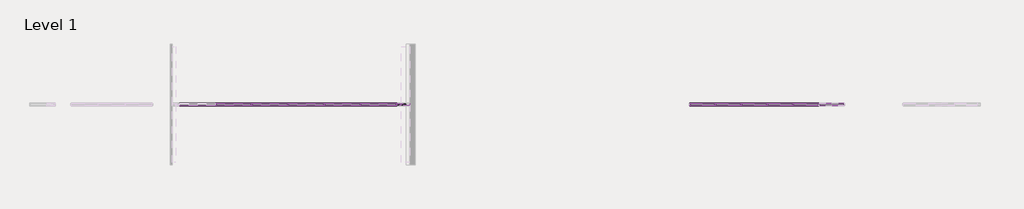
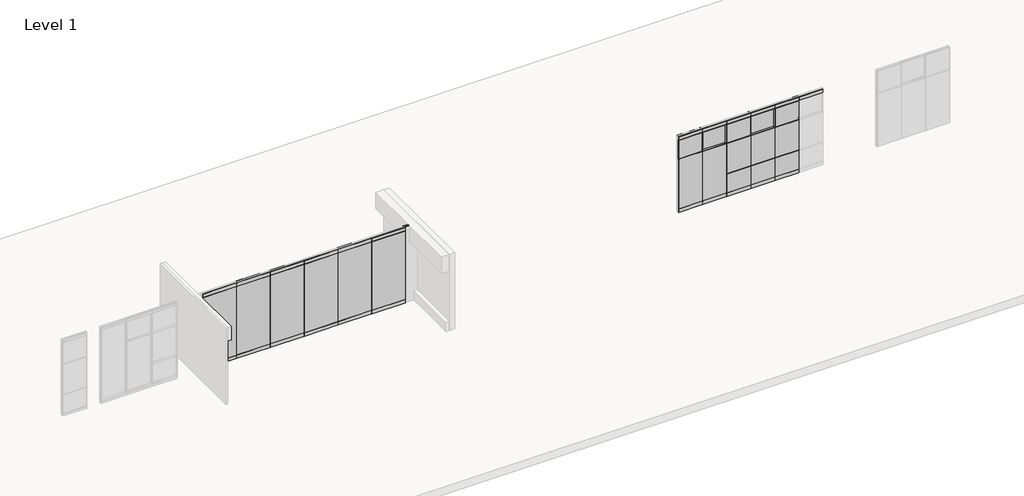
# One storey, part 13 of 22: 111 proxies.
"""IFC4 building model written with IfcOpenShell, lengths in millimetres."""

from ifc_helpers import new_model, si_unit, origin, place, context, project, spatial, transform, mapped, element, save
from components import fkc_e36d1c91, fkn_ecde4ead, fascia_teknion_ceiling_and_base_fpb1_f6fada93, fascia_teknion_ceiling_and_base_fpb1_13b4bfed, fascia_teknion_ceiling_and_base_fpb1_0bfeef01, fascia_teknion_ceiling_and_base_fpb1_b9f04170, fascia_teknion_ceiling_and_base_fpb1_707b8d37, fascia_teknion_ceiling_and_base_fpb1_816009f4, frame_teknion_horizontal_rail_5872ae1a, frame_teknion_horizontal_rail_46ee653b, frame_teknion_horizontal_rail_96f289ab, frame_teknion_horizontal_rail_2bcae702, full_84ced3e5, full_de6f7fca, glass_fascia_921fc641, glass_fascia_0a4ee349, glass_fascia_7fd7f416, working_wall_monolithic_level_i_0b7852cd, working_wall_monolithic_level_i_72bc8cad, level_ii_09c6d2e8, level_ii_52e50c64, segmented_monolithic_level_i_1ec0774b, segmented_monolithic_level_i_c740ac9f, segmented_monolithic_level_i_f7c86621, segmented_monolithic_level_i_c631dfd0

model = new_model("IFC4")

# Units and contexts
model_context = context("Model", 3, world=origin())
ifc_project = project(units=[si_unit("LENGTHUNIT", "METRE", prefix="MILLI")], contexts=[model_context])

# Site, building, storey
site = spatial("IfcSite", under=ifc_project)
building = spatial("IfcBuilding", under=site)
storey = spatial("IfcBuildingStorey", under=building, Name="Level 1", Elevation=0.0)

# Proxies
placement = place(None, origin())
fkc_shape = fkc_e36d1c91(model_context)
element("IfcBuildingElementProxy", 1, Name="Frame-Teknion-Altos-Base_Channel : FKC", ObjectType="Frame-Teknion-Altos-Base_Channel : FKC", at=placement, inside=storey, context=model_context, shape_type="MappedRepresentation", body=[
    mapped(fkc_shape, transform((11261.4815098, 1812.351065, 0.0), x_axis=(1.0, 0.0, 0.0), y_axis=(0.0, 1.0, 0.0), z_axis=(0.0, 0.0, 1.0))),
])
fkn_shape = fkn_ecde4ead(model_context)
element("IfcBuildingElementProxy", 2, Name="Frame-Teknion-Altos-Ceiling_Channel : FKN", ObjectType="Frame-Teknion-Altos-Ceiling_Channel : FKN", at=placement, inside=storey, context=model_context, shape_type="MappedRepresentation", body=[
    mapped(fkn_shape, transform((11172.5815098, 1812.351065, 3048.0), x_axis=(1.0, 0.0, 0.0), y_axis=(0.0, 1.0, 0.0), z_axis=(0.0, 0.0, 1.0))),
])
fascia_teknion_ceiling_and_base_fpb1_shape = fascia_teknion_ceiling_and_base_fpb1_f6fada93(model_context)
element("IfcBuildingElementProxy", 3, Name="Fascia-Teknion-Ceiling_and_Base : FPB1", ObjectType="Fascia-Teknion-Ceiling_and_Base : FPB1", at=placement, inside=storey, context=model_context, shape_type="MappedRepresentation", body=[
    mapped(fascia_teknion_ceiling_and_base_fpb1_shape, transform((5345.8115879, 1843.3402105, 15.875), x_axis=(1.0, 0.0, 0.0), y_axis=(0.0, 1.0, 0.0), z_axis=(0.0, 0.0, 1.0))),
])
element("IfcBuildingElementProxy", 4, Name="Fascia-Teknion-Ceiling_and_Base : FPB1", ObjectType="Fascia-Teknion-Ceiling_and_Base : FPB1", at=placement, inside=storey, context=model_context, shape_type="MappedRepresentation", body=[
    mapped(fascia_teknion_ceiling_and_base_fpb1_shape, transform((6622.1615879, 1843.3402105, 15.875), x_axis=(1.0, 0.0, 0.0), y_axis=(0.0, 1.0, 0.0), z_axis=(0.0, 0.0, 1.0))),
])
element("IfcBuildingElementProxy", 5, Name="Fascia-Teknion-Ceiling_and_Base : FPB1", ObjectType="Fascia-Teknion-Ceiling_and_Base : FPB1", at=placement, inside=storey, context=model_context, shape_type="MappedRepresentation", body=[
    mapped(fascia_teknion_ceiling_and_base_fpb1_shape, transform((7898.5115879, 1843.3402105, 15.875), x_axis=(1.0, 0.0, 0.0), y_axis=(0.0, 1.0, 0.0), z_axis=(0.0, 0.0, 1.0))),
])
element("IfcBuildingElementProxy", 6, Name="Fascia-Teknion-Ceiling_and_Base : FPB1", ObjectType="Fascia-Teknion-Ceiling_and_Base : FPB1", at=placement, inside=storey, context=model_context, shape_type="MappedRepresentation", body=[
    mapped(fascia_teknion_ceiling_and_base_fpb1_shape, transform((9174.8615879, 1843.3402105, 15.875), x_axis=(1.0, 0.0, 0.0), y_axis=(0.0, 1.0, 0.0), z_axis=(0.0, 0.0, 1.0))),
])
element("IfcBuildingElementProxy", 7, Name="Fascia-Teknion-Ceiling_and_Base : FPB1", ObjectType="Fascia-Teknion-Ceiling_and_Base : FPB1", at=placement, inside=storey, context=model_context, shape_type="MappedRepresentation", body=[
    mapped(fascia_teknion_ceiling_and_base_fpb1_shape, transform((10451.2115879, 1843.3402105, 15.875), x_axis=(1.0, 0.0, 0.0), y_axis=(0.0, 1.0, 0.0), z_axis=(0.0, 0.0, 1.0))),
])
fascia_teknion_ceiling_and_base_fpb1_2_shape = fascia_teknion_ceiling_and_base_fpb1_13b4bfed(model_context)
element("IfcBuildingElementProxy", 8, Name="Fascia-Teknion-Ceiling_and_Base : FPB1", ObjectType="Fascia-Teknion-Ceiling_and_Base : FPB1", at=placement, inside=storey, context=model_context, shape_type="MappedRepresentation", body=[
    mapped(fascia_teknion_ceiling_and_base_fpb1_2_shape, transform((5345.8115879, 1781.3642105, 15.875), x_axis=(1.0, 0.0, 0.0), y_axis=(0.0, 1.0, 0.0), z_axis=(0.0, 0.0, 1.0))),
])
element("IfcBuildingElementProxy", 9, Name="Fascia-Teknion-Ceiling_and_Base : FPB1", ObjectType="Fascia-Teknion-Ceiling_and_Base : FPB1", at=placement, inside=storey, context=model_context, shape_type="MappedRepresentation", body=[
    mapped(fascia_teknion_ceiling_and_base_fpb1_2_shape, transform((4069.4615879, 1781.3642105, 15.875), x_axis=(1.0, 0.0, 0.0), y_axis=(0.0, 1.0, 0.0), z_axis=(0.0, 0.0, 1.0))),
])
element("IfcBuildingElementProxy", 10, Name="Fascia-Teknion-Ceiling_and_Base : FPB1", ObjectType="Fascia-Teknion-Ceiling_and_Base : FPB1", at=placement, inside=storey, context=model_context, shape_type="MappedRepresentation", body=[
    mapped(fascia_teknion_ceiling_and_base_fpb1_2_shape, transform((6622.1615879, 1781.3642105, 15.875), x_axis=(1.0, 0.0, 0.0), y_axis=(0.0, 1.0, 0.0), z_axis=(0.0, 0.0, 1.0))),
])
element("IfcBuildingElementProxy", 11, Name="Fascia-Teknion-Ceiling_and_Base : FPB1", ObjectType="Fascia-Teknion-Ceiling_and_Base : FPB1", at=placement, inside=storey, context=model_context, shape_type="MappedRepresentation", body=[
    mapped(fascia_teknion_ceiling_and_base_fpb1_2_shape, transform((7898.5115879, 1781.3642105, 15.875), x_axis=(1.0, 0.0, 0.0), y_axis=(0.0, 1.0, 0.0), z_axis=(0.0, 0.0, 1.0))),
])
element("IfcBuildingElementProxy", 12, Name="Fascia-Teknion-Ceiling_and_Base : FPB1", ObjectType="Fascia-Teknion-Ceiling_and_Base : FPB1", at=placement, inside=storey, context=model_context, shape_type="MappedRepresentation", body=[
    mapped(fascia_teknion_ceiling_and_base_fpb1_2_shape, transform((9174.8615879, 1781.3642105, 15.875), x_axis=(1.0, 0.0, 0.0), y_axis=(0.0, 1.0, 0.0), z_axis=(0.0, 0.0, 1.0))),
])
element("IfcBuildingElementProxy", 13, Name="Fascia-Teknion-Ceiling_and_Base : FPB1", ObjectType="Fascia-Teknion-Ceiling_and_Base : FPB1", at=placement, inside=storey, context=model_context, shape_type="MappedRepresentation", body=[
    mapped(fascia_teknion_ceiling_and_base_fpb1_2_shape, transform((10451.2115879, 1781.3642105, 15.875), x_axis=(1.0, 0.0, 0.0), y_axis=(0.0, 1.0, 0.0), z_axis=(0.0, 0.0, 1.0))),
])
fascia_teknion_ceiling_and_base_fpb1_3_shape = fascia_teknion_ceiling_and_base_fpb1_0bfeef01(model_context)
element("IfcBuildingElementProxy", 14, Name="Fascia-Teknion-Ceiling_and_Base : FPB1", ObjectType="Fascia-Teknion-Ceiling_and_Base : FPB1", at=placement, inside=storey, context=model_context, shape_type="MappedRepresentation", body=[
    mapped(fascia_teknion_ceiling_and_base_fpb1_3_shape, transform((21863.3908134, 1843.3402105, 15.875), x_axis=(1.0, 0.0, 0.0), y_axis=(0.0, 1.0, 0.0), z_axis=(0.0, 0.0, 1.0))),
])
element("IfcBuildingElementProxy", 15, Name="Fascia-Teknion-Ceiling_and_Base : FPB1", ObjectType="Fascia-Teknion-Ceiling_and_Base : FPB1", at=placement, inside=storey, context=model_context, shape_type="MappedRepresentation", body=[
    mapped(fascia_teknion_ceiling_and_base_fpb1_3_shape, transform((26421.4009696, 1843.3402105, 15.875), x_axis=(1.0, 0.0, 0.0), y_axis=(0.0, 1.0, 0.0), z_axis=(0.0, 0.0, 1.0))),
])
fascia_teknion_ceiling_and_base_fpb1_4_shape = fascia_teknion_ceiling_and_base_fpb1_b9f04170(model_context)
element("IfcBuildingElementProxy", 16, Name="Fascia-Teknion-Ceiling_and_Base : FPB1", ObjectType="Fascia-Teknion-Ceiling_and_Base : FPB1", at=placement, inside=storey, context=model_context, shape_type="MappedRepresentation", body=[
    mapped(fascia_teknion_ceiling_and_base_fpb1_4_shape, transform((21863.3908134, 1781.3642105, 15.875), x_axis=(1.0, 0.0, 0.0), y_axis=(0.0, 1.0, 0.0), z_axis=(0.0, 0.0, 1.0))),
])
fascia_teknion_ceiling_and_base_fpb1_5_shape = fascia_teknion_ceiling_and_base_fpb1_707b8d37(model_context)
element("IfcBuildingElementProxy", 17, Name="Fascia-Teknion-Ceiling_and_Base : FPB1", ObjectType="Fascia-Teknion-Ceiling_and_Base : FPB1", at=placement, inside=storey, context=model_context, shape_type="MappedRepresentation", body=[
    mapped(fascia_teknion_ceiling_and_base_fpb1_5_shape, transform((24599.5958915, 1781.3642105, 15.875), x_axis=(1.0, 0.0, 0.0), y_axis=(0.0, 1.0, 0.0), z_axis=(0.0, 0.0, 1.0))),
])
element("IfcBuildingElementProxy", 18, Name="Fascia-Teknion-Ceiling_and_Base : FPB1", ObjectType="Fascia-Teknion-Ceiling_and_Base : FPB1", at=placement, inside=storey, context=model_context, shape_type="MappedRepresentation", body=[
    mapped(fascia_teknion_ceiling_and_base_fpb1_5_shape, transform((23685.1958915, 1781.3642105, 15.875), x_axis=(1.0, 0.0, 0.0), y_axis=(0.0, 1.0, 0.0), z_axis=(0.0, 0.0, 1.0))),
])
element("IfcBuildingElementProxy", 19, Name="Fascia-Teknion-Ceiling_and_Base : FPB1", ObjectType="Fascia-Teknion-Ceiling_and_Base : FPB1", at=placement, inside=storey, context=model_context, shape_type="MappedRepresentation", body=[
    mapped(fascia_teknion_ceiling_and_base_fpb1_5_shape, transform((22770.7958915, 1781.3642105, 15.875), x_axis=(1.0, 0.0, 0.0), y_axis=(0.0, 1.0, 0.0), z_axis=(0.0, 0.0, 1.0))),
])
element("IfcBuildingElementProxy", 20, Name="Fascia-Teknion-Ceiling_and_Base : FPB1", ObjectType="Fascia-Teknion-Ceiling_and_Base : FPB1", at=placement, inside=storey, context=model_context, shape_type="MappedRepresentation", body=[
    mapped(fascia_teknion_ceiling_and_base_fpb1_5_shape, transform((25513.9958915, 1781.3642105, 15.875), x_axis=(1.0, 0.0, 0.0), y_axis=(0.0, 1.0, 0.0), z_axis=(0.0, 0.0, 1.0))),
])
fascia_teknion_ceiling_and_base_fpb1_6_shape = fascia_teknion_ceiling_and_base_fpb1_816009f4(model_context)
element("IfcBuildingElementProxy", 21, Name="Fascia-Teknion-Ceiling_and_Base : FPB1", ObjectType="Fascia-Teknion-Ceiling_and_Base : FPB1", at=placement, inside=storey, context=model_context, shape_type="MappedRepresentation", body=[
    mapped(fascia_teknion_ceiling_and_base_fpb1_6_shape, transform((24599.5958915, 1843.3402105, 15.875), x_axis=(1.0, 0.0, 0.0), y_axis=(0.0, 1.0, 0.0), z_axis=(0.0, 0.0, 1.0))),
])
element("IfcBuildingElementProxy", 22, Name="Fascia-Teknion-Ceiling_and_Base : FPB1", ObjectType="Fascia-Teknion-Ceiling_and_Base : FPB1", at=placement, inside=storey, context=model_context, shape_type="MappedRepresentation", body=[
    mapped(fascia_teknion_ceiling_and_base_fpb1_6_shape, transform((23685.1958915, 1843.3402105, 15.875), x_axis=(1.0, 0.0, 0.0), y_axis=(0.0, 1.0, 0.0), z_axis=(0.0, 0.0, 1.0))),
])
element("IfcBuildingElementProxy", 23, Name="Fascia-Teknion-Ceiling_and_Base : FPB1", ObjectType="Fascia-Teknion-Ceiling_and_Base : FPB1", at=placement, inside=storey, context=model_context, shape_type="MappedRepresentation", body=[
    mapped(fascia_teknion_ceiling_and_base_fpb1_6_shape, transform((22770.7958915, 1843.3402105, 15.875), x_axis=(1.0, 0.0, 0.0), y_axis=(0.0, 1.0, 0.0), z_axis=(0.0, 0.0, 1.0))),
])
element("IfcBuildingElementProxy", 24, Name="Fascia-Teknion-Ceiling_and_Base : FPB1", ObjectType="Fascia-Teknion-Ceiling_and_Base : FPB1", at=placement, inside=storey, context=model_context, shape_type="MappedRepresentation", body=[
    mapped(fascia_teknion_ceiling_and_base_fpb1_6_shape, transform((25513.9958915, 1843.3402105, 15.875), x_axis=(1.0, 0.0, 0.0), y_axis=(0.0, 1.0, 0.0), z_axis=(0.0, 0.0, 1.0))),
])
element("IfcBuildingElementProxy", 25, Name="Fascia-Teknion-Ceiling_and_Base : FPC", ObjectType="Fascia-Teknion-Ceiling_and_Base : FPC", at=placement, inside=storey, context=model_context, shape_type="MappedRepresentation", body=[
    mapped(fascia_teknion_ceiling_and_base_fpb1_shape, transform((5345.8115879, 1843.3402105, 2900.045), x_axis=(1.0, 0.0, 0.0), y_axis=(0.0, 1.0, 0.0), z_axis=(0.0, 0.0, 1.0))),
])
element("IfcBuildingElementProxy", 26, Name="Fascia-Teknion-Ceiling_and_Base : FPC", ObjectType="Fascia-Teknion-Ceiling_and_Base : FPC", at=placement, inside=storey, context=model_context, shape_type="MappedRepresentation", body=[
    mapped(fascia_teknion_ceiling_and_base_fpb1_shape, transform((6622.1615879, 1843.3402105, 2900.045), x_axis=(1.0, 0.0, 0.0), y_axis=(0.0, 1.0, 0.0), z_axis=(0.0, 0.0, 1.0))),
])
element("IfcBuildingElementProxy", 27, Name="Fascia-Teknion-Ceiling_and_Base : FPC", ObjectType="Fascia-Teknion-Ceiling_and_Base : FPC", at=placement, inside=storey, context=model_context, shape_type="MappedRepresentation", body=[
    mapped(fascia_teknion_ceiling_and_base_fpb1_shape, transform((7898.5115879, 1843.3402105, 2900.045), x_axis=(1.0, 0.0, 0.0), y_axis=(0.0, 1.0, 0.0), z_axis=(0.0, 0.0, 1.0))),
])
element("IfcBuildingElementProxy", 28, Name="Fascia-Teknion-Ceiling_and_Base : FPC", ObjectType="Fascia-Teknion-Ceiling_and_Base : FPC", at=placement, inside=storey, context=model_context, shape_type="MappedRepresentation", body=[
    mapped(fascia_teknion_ceiling_and_base_fpb1_shape, transform((9174.8615879, 1843.3402105, 2900.045), x_axis=(1.0, 0.0, 0.0), y_axis=(0.0, 1.0, 0.0), z_axis=(0.0, 0.0, 1.0))),
])
element("IfcBuildingElementProxy", 29, Name="Fascia-Teknion-Ceiling_and_Base : FPC", ObjectType="Fascia-Teknion-Ceiling_and_Base : FPC", at=placement, inside=storey, context=model_context, shape_type="MappedRepresentation", body=[
    mapped(fascia_teknion_ceiling_and_base_fpb1_shape, transform((10451.2115879, 1843.3402105, 2900.045), x_axis=(1.0, 0.0, 0.0), y_axis=(0.0, 1.0, 0.0), z_axis=(0.0, 0.0, 1.0))),
])
element("IfcBuildingElementProxy", 30, Name="Fascia-Teknion-Ceiling_and_Base : FPC", ObjectType="Fascia-Teknion-Ceiling_and_Base : FPC", at=placement, inside=storey, context=model_context, shape_type="MappedRepresentation", body=[
    mapped(fascia_teknion_ceiling_and_base_fpb1_2_shape, transform((5345.8115879, 1781.3642105, 2900.045), x_axis=(1.0, 0.0, 0.0), y_axis=(0.0, 1.0, 0.0), z_axis=(0.0, 0.0, 1.0))),
])
element("IfcBuildingElementProxy", 31, Name="Fascia-Teknion-Ceiling_and_Base : FPC", ObjectType="Fascia-Teknion-Ceiling_and_Base : FPC", at=placement, inside=storey, context=model_context, shape_type="MappedRepresentation", body=[
    mapped(fascia_teknion_ceiling_and_base_fpb1_2_shape, transform((4069.4615879, 1781.3642105, 2900.045), x_axis=(1.0, 0.0, 0.0), y_axis=(0.0, 1.0, 0.0), z_axis=(0.0, 0.0, 1.0))),
])
element("IfcBuildingElementProxy", 32, Name="Fascia-Teknion-Ceiling_and_Base : FPC", ObjectType="Fascia-Teknion-Ceiling_and_Base : FPC", at=placement, inside=storey, context=model_context, shape_type="MappedRepresentation", body=[
    mapped(fascia_teknion_ceiling_and_base_fpb1_2_shape, transform((6622.1615879, 1781.3642105, 2900.045), x_axis=(1.0, 0.0, 0.0), y_axis=(0.0, 1.0, 0.0), z_axis=(0.0, 0.0, 1.0))),
])
element("IfcBuildingElementProxy", 33, Name="Fascia-Teknion-Ceiling_and_Base : FPC", ObjectType="Fascia-Teknion-Ceiling_and_Base : FPC", at=placement, inside=storey, context=model_context, shape_type="MappedRepresentation", body=[
    mapped(fascia_teknion_ceiling_and_base_fpb1_2_shape, transform((7898.5115879, 1781.3642105, 2900.045), x_axis=(1.0, 0.0, 0.0), y_axis=(0.0, 1.0, 0.0), z_axis=(0.0, 0.0, 1.0))),
])
element("IfcBuildingElementProxy", 34, Name="Fascia-Teknion-Ceiling_and_Base : FPC", ObjectType="Fascia-Teknion-Ceiling_and_Base : FPC", at=placement, inside=storey, context=model_context, shape_type="MappedRepresentation", body=[
    mapped(fascia_teknion_ceiling_and_base_fpb1_2_shape, transform((9174.8615879, 1781.3642105, 2900.045), x_axis=(1.0, 0.0, 0.0), y_axis=(0.0, 1.0, 0.0), z_axis=(0.0, 0.0, 1.0))),
])
element("IfcBuildingElementProxy", 35, Name="Fascia-Teknion-Ceiling_and_Base : FPC", ObjectType="Fascia-Teknion-Ceiling_and_Base : FPC", at=placement, inside=storey, context=model_context, shape_type="MappedRepresentation", body=[
    mapped(fascia_teknion_ceiling_and_base_fpb1_2_shape, transform((10451.2115879, 1781.3642105, 2900.045), x_axis=(1.0, 0.0, 0.0), y_axis=(0.0, 1.0, 0.0), z_axis=(0.0, 0.0, 1.0))),
])
element("IfcBuildingElementProxy", 36, Name="Fascia-Teknion-Ceiling_and_Base : FPC", ObjectType="Fascia-Teknion-Ceiling_and_Base : FPC", at=placement, inside=storey, context=model_context, shape_type="MappedRepresentation", body=[
    mapped(fascia_teknion_ceiling_and_base_fpb1_4_shape, transform((21863.3908134, 1781.3642105, 2900.045), x_axis=(1.0, 0.0, 0.0), y_axis=(0.0, 1.0, 0.0), z_axis=(0.0, 0.0, 1.0))),
])
element("IfcBuildingElementProxy", 37, Name="Fascia-Teknion-Ceiling_and_Base : FPC", ObjectType="Fascia-Teknion-Ceiling_and_Base : FPC", at=placement, inside=storey, context=model_context, shape_type="MappedRepresentation", body=[
    mapped(fascia_teknion_ceiling_and_base_fpb1_4_shape, transform((26421.4009696, 1781.3642105, 2900.045), x_axis=(1.0, 0.0, 0.0), y_axis=(0.0, 1.0, 0.0), z_axis=(0.0, 0.0, 1.0))),
])
element("IfcBuildingElementProxy", 38, Name="Fascia-Teknion-Ceiling_and_Base : FPC", ObjectType="Fascia-Teknion-Ceiling_and_Base : FPC", at=placement, inside=storey, context=model_context, shape_type="MappedRepresentation", body=[
    mapped(fascia_teknion_ceiling_and_base_fpb1_3_shape, transform((21863.3908134, 1843.3402105, 2900.045), x_axis=(1.0, 0.0, 0.0), y_axis=(0.0, 1.0, 0.0), z_axis=(0.0, 0.0, 1.0))),
])
element("IfcBuildingElementProxy", 39, Name="Fascia-Teknion-Ceiling_and_Base : FPC", ObjectType="Fascia-Teknion-Ceiling_and_Base : FPC", at=placement, inside=storey, context=model_context, shape_type="MappedRepresentation", body=[
    mapped(fascia_teknion_ceiling_and_base_fpb1_3_shape, transform((26421.4009696, 1843.3402105, 2900.045), x_axis=(1.0, 0.0, 0.0), y_axis=(0.0, 1.0, 0.0), z_axis=(0.0, 0.0, 1.0))),
])
element("IfcBuildingElementProxy", 40, Name="Fascia-Teknion-Ceiling_and_Base : FPC", ObjectType="Fascia-Teknion-Ceiling_and_Base : FPC", at=placement, inside=storey, context=model_context, shape_type="MappedRepresentation", body=[
    mapped(fascia_teknion_ceiling_and_base_fpb1_5_shape, transform((24599.5958915, 1781.3642105, 2900.045), x_axis=(1.0, 0.0, 0.0), y_axis=(0.0, 1.0, 0.0), z_axis=(0.0, 0.0, 1.0))),
])
element("IfcBuildingElementProxy", 41, Name="Fascia-Teknion-Ceiling_and_Base : FPC", ObjectType="Fascia-Teknion-Ceiling_and_Base : FPC", at=placement, inside=storey, context=model_context, shape_type="MappedRepresentation", body=[
    mapped(fascia_teknion_ceiling_and_base_fpb1_5_shape, transform((23685.1958915, 1781.3642105, 2900.045), x_axis=(1.0, 0.0, 0.0), y_axis=(0.0, 1.0, 0.0), z_axis=(0.0, 0.0, 1.0))),
])
element("IfcBuildingElementProxy", 42, Name="Fascia-Teknion-Ceiling_and_Base : FPC", ObjectType="Fascia-Teknion-Ceiling_and_Base : FPC", at=placement, inside=storey, context=model_context, shape_type="MappedRepresentation", body=[
    mapped(fascia_teknion_ceiling_and_base_fpb1_5_shape, transform((22770.7958915, 1781.3642105, 2900.045), x_axis=(1.0, 0.0, 0.0), y_axis=(0.0, 1.0, 0.0), z_axis=(0.0, 0.0, 1.0))),
])
element("IfcBuildingElementProxy", 43, Name="Fascia-Teknion-Ceiling_and_Base : FPC", ObjectType="Fascia-Teknion-Ceiling_and_Base : FPC", at=placement, inside=storey, context=model_context, shape_type="MappedRepresentation", body=[
    mapped(fascia_teknion_ceiling_and_base_fpb1_5_shape, transform((25513.9958915, 1781.3642105, 2900.045), x_axis=(1.0, 0.0, 0.0), y_axis=(0.0, 1.0, 0.0), z_axis=(0.0, 0.0, 1.0))),
])
element("IfcBuildingElementProxy", 44, Name="Fascia-Teknion-Ceiling_and_Base : FPC", ObjectType="Fascia-Teknion-Ceiling_and_Base : FPC", at=placement, inside=storey, context=model_context, shape_type="MappedRepresentation", body=[
    mapped(fascia_teknion_ceiling_and_base_fpb1_6_shape, transform((24599.5958915, 1843.3402105, 2900.045), x_axis=(1.0, 0.0, 0.0), y_axis=(0.0, 1.0, 0.0), z_axis=(0.0, 0.0, 1.0))),
])
element("IfcBuildingElementProxy", 45, Name="Fascia-Teknion-Ceiling_and_Base : FPC", ObjectType="Fascia-Teknion-Ceiling_and_Base : FPC", at=placement, inside=storey, context=model_context, shape_type="MappedRepresentation", body=[
    mapped(fascia_teknion_ceiling_and_base_fpb1_6_shape, transform((23685.1958915, 1843.3402105, 2900.045), x_axis=(1.0, 0.0, 0.0), y_axis=(0.0, 1.0, 0.0), z_axis=(0.0, 0.0, 1.0))),
])
element("IfcBuildingElementProxy", 46, Name="Fascia-Teknion-Ceiling_and_Base : FPC", ObjectType="Fascia-Teknion-Ceiling_and_Base : FPC", at=placement, inside=storey, context=model_context, shape_type="MappedRepresentation", body=[
    mapped(fascia_teknion_ceiling_and_base_fpb1_6_shape, transform((22770.7958915, 1843.3402105, 2900.045), x_axis=(1.0, 0.0, 0.0), y_axis=(0.0, 1.0, 0.0), z_axis=(0.0, 0.0, 1.0))),
])
element("IfcBuildingElementProxy", 47, Name="Fascia-Teknion-Ceiling_and_Base : FPC", ObjectType="Fascia-Teknion-Ceiling_and_Base : FPC", at=placement, inside=storey, context=model_context, shape_type="MappedRepresentation", body=[
    mapped(fascia_teknion_ceiling_and_base_fpb1_6_shape, transform((25513.9958915, 1843.3402105, 2900.045), x_axis=(1.0, 0.0, 0.0), y_axis=(0.0, 1.0, 0.0), z_axis=(0.0, 0.0, 1.0))),
])
frame_teknion_horizontal_rail_shape = frame_teknion_horizontal_rail_5872ae1a(model_context)
element("IfcBuildingElementProxy", 48, Name="Frame-Teknion-Horizontal_Rail : FPKK", ObjectType="Frame-Teknion-Horizontal_Rail : FPKK", at=placement, inside=storey, context=model_context, shape_type="MappedRepresentation", body=[
    mapped(frame_teknion_horizontal_rail_shape, transform((21863.3908134, 1812.3522105, 2136.775), x_axis=(1.0, 0.0, 0.0), y_axis=(0.0, 1.0, 0.0), z_axis=(0.0, 0.0, 1.0))),
])
element("IfcBuildingElementProxy", 49, Name="Frame-Teknion-Horizontal_Rail : FPKK", ObjectType="Frame-Teknion-Horizontal_Rail : FPKK", at=placement, inside=storey, context=model_context, shape_type="MappedRepresentation", body=[
    mapped(frame_teknion_horizontal_rail_shape, transform((21863.3908134, 1812.3522105, 151.257), x_axis=(1.0, 0.0, 0.0), y_axis=(0.0, 1.0, 0.0), z_axis=(0.0, 0.0, 1.0))),
])
element("IfcBuildingElementProxy", 50, Name="Frame-Teknion-Horizontal_Rail : FPKK", ObjectType="Frame-Teknion-Horizontal_Rail : FPKK", at=placement, inside=storey, context=model_context, shape_type="MappedRepresentation", body=[
    mapped(frame_teknion_horizontal_rail_shape, transform((21863.3908134, 1812.3522105, 2896.743), x_axis=(1.0, 0.0, 0.0), y_axis=(0.0, 1.0, 0.0), z_axis=(0.0, 0.0, 1.0))),
])
element("IfcBuildingElementProxy", 51, Name="Frame-Teknion-Horizontal_Rail : FPKK", ObjectType="Frame-Teknion-Horizontal_Rail : FPKK", at=placement, inside=storey, context=model_context, shape_type="MappedRepresentation", body=[
    mapped(frame_teknion_horizontal_rail_shape, transform((26421.4009696, 1812.3522105, 917.575), x_axis=(1.0, 0.0, 0.0), y_axis=(0.0, 1.0, 0.0), z_axis=(0.0, 0.0, 1.0))),
])
element("IfcBuildingElementProxy", 52, Name="Frame-Teknion-Horizontal_Rail : FPKK", ObjectType="Frame-Teknion-Horizontal_Rail : FPKK", at=placement, inside=storey, context=model_context, shape_type="MappedRepresentation", body=[
    mapped(frame_teknion_horizontal_rail_shape, transform((26421.4009696, 1812.3522105, 2136.775), x_axis=(1.0, 0.0, 0.0), y_axis=(0.0, 1.0, 0.0), z_axis=(0.0, 0.0, 1.0))),
])
element("IfcBuildingElementProxy", 53, Name="Frame-Teknion-Horizontal_Rail : FPKK", ObjectType="Frame-Teknion-Horizontal_Rail : FPKK", at=placement, inside=storey, context=model_context, shape_type="MappedRepresentation", body=[
    mapped(frame_teknion_horizontal_rail_shape, transform((26421.4009696, 1812.3522105, 151.257), x_axis=(1.0, 0.0, 0.0), y_axis=(0.0, 1.0, 0.0), z_axis=(0.0, 0.0, 1.0))),
])
element("IfcBuildingElementProxy", 54, Name="Frame-Teknion-Horizontal_Rail : FPKK", ObjectType="Frame-Teknion-Horizontal_Rail : FPKK", at=placement, inside=storey, context=model_context, shape_type="MappedRepresentation", body=[
    mapped(frame_teknion_horizontal_rail_shape, transform((26421.4009696, 1812.3522105, 2896.743), x_axis=(1.0, 0.0, 0.0), y_axis=(0.0, 1.0, 0.0), z_axis=(0.0, 0.0, 1.0))),
])
frame_teknion_horizontal_rail_2_shape = frame_teknion_horizontal_rail_46ee653b(model_context)
element("IfcBuildingElementProxy", 55, Name="Frame-Teknion-Horizontal_Rail : FPKK", ObjectType="Frame-Teknion-Horizontal_Rail : FPKK", at=placement, inside=storey, context=model_context, shape_type="MappedRepresentation", body=[
    mapped(frame_teknion_horizontal_rail_2_shape, transform((24599.5958915, 1812.3522105, 2136.775), x_axis=(1.0, 0.0, 0.0), y_axis=(0.0, 1.0, 0.0), z_axis=(0.0, 0.0, 1.0))),
])
element("IfcBuildingElementProxy", 56, Name="Frame-Teknion-Horizontal_Rail : FPKK", ObjectType="Frame-Teknion-Horizontal_Rail : FPKK", at=placement, inside=storey, context=model_context, shape_type="MappedRepresentation", body=[
    mapped(frame_teknion_horizontal_rail_2_shape, transform((24599.5958915, 1812.3522105, 151.257), x_axis=(1.0, 0.0, 0.0), y_axis=(0.0, 1.0, 0.0), z_axis=(0.0, 0.0, 1.0))),
])
element("IfcBuildingElementProxy", 57, Name="Frame-Teknion-Horizontal_Rail : FPKK", ObjectType="Frame-Teknion-Horizontal_Rail : FPKK", at=placement, inside=storey, context=model_context, shape_type="MappedRepresentation", body=[
    mapped(frame_teknion_horizontal_rail_2_shape, transform((24599.5958915, 1812.3522105, 2896.743), x_axis=(1.0, 0.0, 0.0), y_axis=(0.0, 1.0, 0.0), z_axis=(0.0, 0.0, 1.0))),
])
element("IfcBuildingElementProxy", 58, Name="Frame-Teknion-Horizontal_Rail : FPKK", ObjectType="Frame-Teknion-Horizontal_Rail : FPKK", at=placement, inside=storey, context=model_context, shape_type="MappedRepresentation", body=[
    mapped(frame_teknion_horizontal_rail_2_shape, transform((23685.1958915, 1812.3522105, 2136.775), x_axis=(1.0, 0.0, 0.0), y_axis=(0.0, 1.0, 0.0), z_axis=(0.0, 0.0, 1.0))),
])
element("IfcBuildingElementProxy", 59, Name="Frame-Teknion-Horizontal_Rail : FPKK", ObjectType="Frame-Teknion-Horizontal_Rail : FPKK", at=placement, inside=storey, context=model_context, shape_type="MappedRepresentation", body=[
    mapped(frame_teknion_horizontal_rail_2_shape, transform((23685.1958915, 1812.3522105, 151.257), x_axis=(1.0, 0.0, 0.0), y_axis=(0.0, 1.0, 0.0), z_axis=(0.0, 0.0, 1.0))),
])
element("IfcBuildingElementProxy", 60, Name="Frame-Teknion-Horizontal_Rail : FPKK", ObjectType="Frame-Teknion-Horizontal_Rail : FPKK", at=placement, inside=storey, context=model_context, shape_type="MappedRepresentation", body=[
    mapped(frame_teknion_horizontal_rail_2_shape, transform((23685.1958915, 1812.3522105, 2896.743), x_axis=(1.0, 0.0, 0.0), y_axis=(0.0, 1.0, 0.0), z_axis=(0.0, 0.0, 1.0))),
])
element("IfcBuildingElementProxy", 61, Name="Frame-Teknion-Horizontal_Rail : FPKK", ObjectType="Frame-Teknion-Horizontal_Rail : FPKK", at=placement, inside=storey, context=model_context, shape_type="MappedRepresentation", body=[
    mapped(frame_teknion_horizontal_rail_2_shape, transform((23685.1958915, 1812.3522105, 917.575), x_axis=(1.0, 0.0, 0.0), y_axis=(0.0, 1.0, 0.0), z_axis=(0.0, 0.0, 1.0))),
])
element("IfcBuildingElementProxy", 62, Name="Frame-Teknion-Horizontal_Rail : FPKK", ObjectType="Frame-Teknion-Horizontal_Rail : FPKK", at=placement, inside=storey, context=model_context, shape_type="MappedRepresentation", body=[
    mapped(frame_teknion_horizontal_rail_2_shape, transform((24599.5958915, 1812.3522105, 917.575), x_axis=(1.0, 0.0, 0.0), y_axis=(0.0, 1.0, 0.0), z_axis=(0.0, 0.0, 1.0))),
])
element("IfcBuildingElementProxy", 63, Name="Frame-Teknion-Horizontal_Rail : FPKK", ObjectType="Frame-Teknion-Horizontal_Rail : FPKK", at=placement, inside=storey, context=model_context, shape_type="MappedRepresentation", body=[
    mapped(frame_teknion_horizontal_rail_2_shape, transform((22770.7958915, 1812.3522105, 2136.775), x_axis=(1.0, 0.0, 0.0), y_axis=(0.0, 1.0, 0.0), z_axis=(0.0, 0.0, 1.0))),
])
element("IfcBuildingElementProxy", 64, Name="Frame-Teknion-Horizontal_Rail : FPKK", ObjectType="Frame-Teknion-Horizontal_Rail : FPKK", at=placement, inside=storey, context=model_context, shape_type="MappedRepresentation", body=[
    mapped(frame_teknion_horizontal_rail_2_shape, transform((22770.7958915, 1812.3522105, 151.257), x_axis=(1.0, 0.0, 0.0), y_axis=(0.0, 1.0, 0.0), z_axis=(0.0, 0.0, 1.0))),
])
element("IfcBuildingElementProxy", 65, Name="Frame-Teknion-Horizontal_Rail : FPKK", ObjectType="Frame-Teknion-Horizontal_Rail : FPKK", at=placement, inside=storey, context=model_context, shape_type="MappedRepresentation", body=[
    mapped(frame_teknion_horizontal_rail_2_shape, transform((22770.7958915, 1812.3522105, 2896.743), x_axis=(1.0, 0.0, 0.0), y_axis=(0.0, 1.0, 0.0), z_axis=(0.0, 0.0, 1.0))),
])
element("IfcBuildingElementProxy", 66, Name="Frame-Teknion-Horizontal_Rail : FPKK", ObjectType="Frame-Teknion-Horizontal_Rail : FPKK", at=placement, inside=storey, context=model_context, shape_type="MappedRepresentation", body=[
    mapped(frame_teknion_horizontal_rail_2_shape, transform((25513.9958915, 1812.3522105, 917.575), x_axis=(1.0, 0.0, 0.0), y_axis=(0.0, 1.0, 0.0), z_axis=(0.0, 0.0, 1.0))),
])
element("IfcBuildingElementProxy", 67, Name="Frame-Teknion-Horizontal_Rail : FPKK", ObjectType="Frame-Teknion-Horizontal_Rail : FPKK", at=placement, inside=storey, context=model_context, shape_type="MappedRepresentation", body=[
    mapped(frame_teknion_horizontal_rail_2_shape, transform((25513.9958915, 1812.3522105, 2136.775), x_axis=(1.0, 0.0, 0.0), y_axis=(0.0, 1.0, 0.0), z_axis=(0.0, 0.0, 1.0))),
])
element("IfcBuildingElementProxy", 68, Name="Frame-Teknion-Horizontal_Rail : FPKK", ObjectType="Frame-Teknion-Horizontal_Rail : FPKK", at=placement, inside=storey, context=model_context, shape_type="MappedRepresentation", body=[
    mapped(frame_teknion_horizontal_rail_2_shape, transform((25513.9958915, 1812.3522105, 151.257), x_axis=(1.0, 0.0, 0.0), y_axis=(0.0, 1.0, 0.0), z_axis=(0.0, 0.0, 1.0))),
])
element("IfcBuildingElementProxy", 69, Name="Frame-Teknion-Horizontal_Rail : FPKK", ObjectType="Frame-Teknion-Horizontal_Rail : FPKK", at=placement, inside=storey, context=model_context, shape_type="MappedRepresentation", body=[
    mapped(frame_teknion_horizontal_rail_2_shape, transform((25513.9958915, 1812.3522105, 2896.743), x_axis=(1.0, 0.0, 0.0), y_axis=(0.0, 1.0, 0.0), z_axis=(0.0, 0.0, 1.0))),
])
frame_teknion_horizontal_rail_3_shape = frame_teknion_horizontal_rail_96f289ab(model_context)
element("IfcBuildingElementProxy", 70, Name="Frame-Teknion-Horizontal_Rail : FPKK", ObjectType="Frame-Teknion-Horizontal_Rail : FPKK", at=placement, inside=storey, context=model_context, shape_type="MappedRepresentation", body=[
    mapped(frame_teknion_horizontal_rail_3_shape, transform((5345.8115879, 1812.3522105, 151.257), x_axis=(1.0, 0.0, 0.0), y_axis=(0.0, 1.0, 0.0), z_axis=(0.0, 0.0, 1.0))),
])
element("IfcBuildingElementProxy", 71, Name="Frame-Teknion-Horizontal_Rail : FPKK", ObjectType="Frame-Teknion-Horizontal_Rail : FPKK", at=placement, inside=storey, context=model_context, shape_type="MappedRepresentation", body=[
    mapped(frame_teknion_horizontal_rail_3_shape, transform((5345.8115879, 1812.3522105, 2898.3305), x_axis=(1.0, 0.0, 0.0), y_axis=(0.0, 1.0, 0.0), z_axis=(0.0, 0.0, 1.0))),
])
element("IfcBuildingElementProxy", 72, Name="Frame-Teknion-Horizontal_Rail : FPKK", ObjectType="Frame-Teknion-Horizontal_Rail : FPKK", at=placement, inside=storey, context=model_context, shape_type="MappedRepresentation", body=[
    mapped(frame_teknion_horizontal_rail_3_shape, transform((6622.1615879, 1812.3522105, 151.257), x_axis=(1.0, 0.0, 0.0), y_axis=(0.0, 1.0, 0.0), z_axis=(0.0, 0.0, 1.0))),
])
element("IfcBuildingElementProxy", 73, Name="Frame-Teknion-Horizontal_Rail : FPKK", ObjectType="Frame-Teknion-Horizontal_Rail : FPKK", at=placement, inside=storey, context=model_context, shape_type="MappedRepresentation", body=[
    mapped(frame_teknion_horizontal_rail_3_shape, transform((6622.1615879, 1812.3522105, 2898.3305), x_axis=(1.0, 0.0, 0.0), y_axis=(0.0, 1.0, 0.0), z_axis=(0.0, 0.0, 1.0))),
])
element("IfcBuildingElementProxy", 74, Name="Frame-Teknion-Horizontal_Rail : FPKK", ObjectType="Frame-Teknion-Horizontal_Rail : FPKK", at=placement, inside=storey, context=model_context, shape_type="MappedRepresentation", body=[
    mapped(frame_teknion_horizontal_rail_3_shape, transform((7898.5115879, 1812.3522105, 151.257), x_axis=(1.0, 0.0, 0.0), y_axis=(0.0, 1.0, 0.0), z_axis=(0.0, 0.0, 1.0))),
])
element("IfcBuildingElementProxy", 75, Name="Frame-Teknion-Horizontal_Rail : FPKK", ObjectType="Frame-Teknion-Horizontal_Rail : FPKK", at=placement, inside=storey, context=model_context, shape_type="MappedRepresentation", body=[
    mapped(frame_teknion_horizontal_rail_3_shape, transform((7898.5115879, 1812.3522105, 2898.3305), x_axis=(1.0, 0.0, 0.0), y_axis=(0.0, 1.0, 0.0), z_axis=(0.0, 0.0, 1.0))),
])
element("IfcBuildingElementProxy", 76, Name="Frame-Teknion-Horizontal_Rail : FPKK", ObjectType="Frame-Teknion-Horizontal_Rail : FPKK", at=placement, inside=storey, context=model_context, shape_type="MappedRepresentation", body=[
    mapped(frame_teknion_horizontal_rail_3_shape, transform((9174.8615879, 1812.3522105, 151.257), x_axis=(1.0, 0.0, 0.0), y_axis=(0.0, 1.0, 0.0), z_axis=(0.0, 0.0, 1.0))),
])
element("IfcBuildingElementProxy", 77, Name="Frame-Teknion-Horizontal_Rail : FPKK", ObjectType="Frame-Teknion-Horizontal_Rail : FPKK", at=placement, inside=storey, context=model_context, shape_type="MappedRepresentation", body=[
    mapped(frame_teknion_horizontal_rail_3_shape, transform((9174.8615879, 1812.3522105, 2898.3305), x_axis=(1.0, 0.0, 0.0), y_axis=(0.0, 1.0, 0.0), z_axis=(0.0, 0.0, 1.0))),
])
element("IfcBuildingElementProxy", 78, Name="Frame-Teknion-Horizontal_Rail : FPKK", ObjectType="Frame-Teknion-Horizontal_Rail : FPKK", at=placement, inside=storey, context=model_context, shape_type="MappedRepresentation", body=[
    mapped(frame_teknion_horizontal_rail_3_shape, transform((10451.2115879, 1812.3522105, 151.257), x_axis=(1.0, 0.0, 0.0), y_axis=(0.0, 1.0, 0.0), z_axis=(0.0, 0.0, 1.0))),
])
element("IfcBuildingElementProxy", 79, Name="Frame-Teknion-Horizontal_Rail : FPKK", ObjectType="Frame-Teknion-Horizontal_Rail : FPKK", at=placement, inside=storey, context=model_context, shape_type="MappedRepresentation", body=[
    mapped(frame_teknion_horizontal_rail_3_shape, transform((10451.2115879, 1812.3522105, 2898.3305), x_axis=(1.0, 0.0, 0.0), y_axis=(0.0, 1.0, 0.0), z_axis=(0.0, 0.0, 1.0))),
])
frame_teknion_horizontal_rail_4_shape = frame_teknion_horizontal_rail_2bcae702(model_context)
element("IfcBuildingElementProxy", 80, Name="Frame-Teknion-Horizontal_Rail : FPKK", ObjectType="Frame-Teknion-Horizontal_Rail : FPKK", at=placement, inside=storey, context=model_context, shape_type="MappedRepresentation", body=[
    mapped(frame_teknion_horizontal_rail_4_shape, transform((11324.9815098, 1812.351065, 1485.8890638), x_axis=(1.0, 0.0, 0.0), y_axis=(0.0, 1.0, 0.0), z_axis=(0.0, 0.0, 1.0))),
])
full_shape = full_84ced3e5(model_context)
element("IfcBuildingElementProxy", 81, Name="Panel-Fascia-Teknion-Altos-Standard : Full", ObjectType="Panel-Fascia-Teknion-Altos-Standard : Full", at=placement, inside=storey, context=model_context, shape_type="MappedRepresentation", body=[
    mapped(full_shape, transform((5345.8115879, 1852.8652105, 151.257), x_axis=(1.0, 0.0, 0.0), y_axis=(0.0, 1.0, 0.0), z_axis=(0.0, 0.0, 1.0))),
])
element("IfcBuildingElementProxy", 82, Name="Panel-Fascia-Teknion-Altos-Standard : Full", ObjectType="Panel-Fascia-Teknion-Altos-Standard : Full", at=placement, inside=storey, context=model_context, shape_type="MappedRepresentation", body=[
    mapped(full_shape, transform((4069.4615879, 1852.8652105, 151.257), x_axis=(1.0, 0.0, 0.0), y_axis=(0.0, 1.0, 0.0), z_axis=(0.0, 0.0, 1.0))),
])
element("IfcBuildingElementProxy", 83, Name="Panel-Fascia-Teknion-Altos-Standard : Full", ObjectType="Panel-Fascia-Teknion-Altos-Standard : Full", at=placement, inside=storey, context=model_context, shape_type="MappedRepresentation", body=[
    mapped(full_shape, transform((6622.1615879, 1852.8652105, 151.257), x_axis=(1.0, 0.0, 0.0), y_axis=(0.0, 1.0, 0.0), z_axis=(0.0, 0.0, 1.0))),
])
element("IfcBuildingElementProxy", 84, Name="Panel-Fascia-Teknion-Altos-Standard : Full", ObjectType="Panel-Fascia-Teknion-Altos-Standard : Full", at=placement, inside=storey, context=model_context, shape_type="MappedRepresentation", body=[
    mapped(full_shape, transform((7898.5115879, 1852.8652105, 151.257), x_axis=(1.0, 0.0, 0.0), y_axis=(0.0, 1.0, 0.0), z_axis=(0.0, 0.0, 1.0))),
])
element("IfcBuildingElementProxy", 85, Name="Panel-Fascia-Teknion-Altos-Standard : Full", ObjectType="Panel-Fascia-Teknion-Altos-Standard : Full", at=placement, inside=storey, context=model_context, shape_type="MappedRepresentation", body=[
    mapped(full_shape, transform((9174.8615879, 1852.8652105, 151.257), x_axis=(1.0, 0.0, 0.0), y_axis=(0.0, 1.0, 0.0), z_axis=(0.0, 0.0, 1.0))),
])
element("IfcBuildingElementProxy", 86, Name="Panel-Fascia-Teknion-Altos-Standard : Full", ObjectType="Panel-Fascia-Teknion-Altos-Standard : Full", at=placement, inside=storey, context=model_context, shape_type="MappedRepresentation", body=[
    mapped(full_shape, transform((10451.2115879, 1852.8652105, 151.257), x_axis=(1.0, 0.0, 0.0), y_axis=(0.0, 1.0, 0.0), z_axis=(0.0, 0.0, 1.0))),
])
full_2_shape = full_de6f7fca(model_context)
element("IfcBuildingElementProxy", 87, Name="Panel-Fascia-Teknion-Altos-Standard : Full", ObjectType="Panel-Fascia-Teknion-Altos-Standard : Full", at=placement, inside=storey, context=model_context, shape_type="MappedRepresentation", body=[
    mapped(full_2_shape, transform((5345.8115879, 1771.8392105, 151.257), x_axis=(1.0, 0.0, 0.0), y_axis=(0.0, 1.0, 0.0), z_axis=(0.0, 0.0, 1.0))),
])
element("IfcBuildingElementProxy", 88, Name="Panel-Fascia-Teknion-Altos-Standard : Full", ObjectType="Panel-Fascia-Teknion-Altos-Standard : Full", at=placement, inside=storey, context=model_context, shape_type="MappedRepresentation", body=[
    mapped(full_2_shape, transform((4069.4615879, 1771.8392105, 151.257), x_axis=(1.0, 0.0, 0.0), y_axis=(0.0, 1.0, 0.0), z_axis=(0.0, 0.0, 1.0))),
])
element("IfcBuildingElementProxy", 89, Name="Panel-Fascia-Teknion-Altos-Standard : Full", ObjectType="Panel-Fascia-Teknion-Altos-Standard : Full", at=placement, inside=storey, context=model_context, shape_type="MappedRepresentation", body=[
    mapped(full_2_shape, transform((6622.1615879, 1771.8392105, 151.257), x_axis=(1.0, 0.0, 0.0), y_axis=(0.0, 1.0, 0.0), z_axis=(0.0, 0.0, 1.0))),
])
element("IfcBuildingElementProxy", 90, Name="Panel-Fascia-Teknion-Altos-Standard : Full", ObjectType="Panel-Fascia-Teknion-Altos-Standard : Full", at=placement, inside=storey, context=model_context, shape_type="MappedRepresentation", body=[
    mapped(full_2_shape, transform((7898.5115879, 1771.8392105, 151.257), x_axis=(1.0, 0.0, 0.0), y_axis=(0.0, 1.0, 0.0), z_axis=(0.0, 0.0, 1.0))),
])
element("IfcBuildingElementProxy", 91, Name="Panel-Fascia-Teknion-Altos-Standard : Full", ObjectType="Panel-Fascia-Teknion-Altos-Standard : Full", at=placement, inside=storey, context=model_context, shape_type="MappedRepresentation", body=[
    mapped(full_2_shape, transform((9174.8615879, 1771.8392105, 151.257), x_axis=(1.0, 0.0, 0.0), y_axis=(0.0, 1.0, 0.0), z_axis=(0.0, 0.0, 1.0))),
])
element("IfcBuildingElementProxy", 92, Name="Panel-Fascia-Teknion-Altos-Standard : Full", ObjectType="Panel-Fascia-Teknion-Altos-Standard : Full", at=placement, inside=storey, context=model_context, shape_type="MappedRepresentation", body=[
    mapped(full_2_shape, transform((10451.2115879, 1771.8392105, 151.257), x_axis=(1.0, 0.0, 0.0), y_axis=(0.0, 1.0, 0.0), z_axis=(0.0, 0.0, 1.0))),
])
glass_fascia_shape = glass_fascia_921fc641(model_context)
element("IfcBuildingElementProxy", 93, Name="Panel-Fascia-Teknion-Altos-Glass : Glass Fascia", ObjectType="Panel-Fascia-Teknion-Altos-Glass : Glass Fascia", at=placement, inside=storey, context=model_context, shape_type="MappedRepresentation", body=[
    mapped(glass_fascia_shape, transform((21863.3908134, 1812.3522105, 2136.775), x_axis=(1.0, 0.0, 0.0), y_axis=(0.0, 1.0, 0.0), z_axis=(0.0, 0.0, 1.0))),
])
glass_fascia_2_shape = glass_fascia_0a4ee349(model_context)
element("IfcBuildingElementProxy", 94, Name="Panel-Fascia-Teknion-Altos-Glass : Glass Fascia", ObjectType="Panel-Fascia-Teknion-Altos-Glass : Glass Fascia", at=placement, inside=storey, context=model_context, shape_type="MappedRepresentation", body=[
    mapped(glass_fascia_2_shape, transform((24599.5958915, 1812.3522105, 2136.775), x_axis=(1.0, 0.0, 0.0), y_axis=(0.0, 1.0, 0.0), z_axis=(0.0, 0.0, 1.0))),
])
element("IfcBuildingElementProxy", 95, Name="Panel-Fascia-Teknion-Altos-Glass : Glass Fascia", ObjectType="Panel-Fascia-Teknion-Altos-Glass : Glass Fascia", at=placement, inside=storey, context=model_context, shape_type="MappedRepresentation", body=[
    mapped(glass_fascia_2_shape, transform((22770.7958915, 1812.3522105, 2136.775), x_axis=(1.0, 0.0, 0.0), y_axis=(0.0, 1.0, 0.0), z_axis=(0.0, 0.0, 1.0))),
])
glass_fascia_3_shape = glass_fascia_7fd7f416(model_context)
element("IfcBuildingElementProxy", 96, Name="Panel-Fascia-Teknion-Altos-Glass : Glass Fascia", ObjectType="Panel-Fascia-Teknion-Altos-Glass : Glass Fascia", at=placement, inside=storey, context=model_context, shape_type="MappedRepresentation", body=[
    mapped(glass_fascia_3_shape, transform((23685.1958915, 1812.3522105, 2136.775), x_axis=(1.0, 0.0, 0.0), y_axis=(0.0, 1.0, 0.0), z_axis=(0.0, 0.0, 1.0))),
])
element("IfcBuildingElementProxy", 97, Name="Panel-Fascia-Teknion-Altos-Glass : Glass Fascia", ObjectType="Panel-Fascia-Teknion-Altos-Glass : Glass Fascia", at=placement, inside=storey, context=model_context, shape_type="MappedRepresentation", body=[
    mapped(glass_fascia_3_shape, transform((25513.9958915, 1812.3522105, 2136.775), x_axis=(1.0, 0.0, 0.0), y_axis=(0.0, 1.0, 0.0), z_axis=(0.0, 0.0, 1.0))),
])
working_wall_monolithic_level_i_shape = working_wall_monolithic_level_i_0b7852cd(model_context)
element("IfcBuildingElementProxy", 98, Name="Panel-Fascia-Teknion-Altos-Standard : Level I", ObjectType="Panel-Fascia-Teknion-Altos-Standard : Level I", at=placement, inside=storey, context=model_context, shape_type="MappedRepresentation", body=[
    mapped(working_wall_monolithic_level_i_shape, transform((24599.5958915, 1771.8392105, 151.257), x_axis=(1.0, 0.0, 0.0), y_axis=(0.0, 1.0, 0.0), z_axis=(0.0, 0.0, 1.0))),
])
element("IfcBuildingElementProxy", 99, Name="Panel-Fascia-Teknion-Altos-Standard : Level I", ObjectType="Panel-Fascia-Teknion-Altos-Standard : Level I", at=placement, inside=storey, context=model_context, shape_type="MappedRepresentation", body=[
    mapped(working_wall_monolithic_level_i_shape, transform((23685.1958915, 1771.8392105, 151.257), x_axis=(1.0, 0.0, 0.0), y_axis=(0.0, 1.0, 0.0), z_axis=(0.0, 0.0, 1.0))),
])
element("IfcBuildingElementProxy", 100, Name="Panel-Fascia-Teknion-Altos-Standard : Level I", ObjectType="Panel-Fascia-Teknion-Altos-Standard : Level I", at=placement, inside=storey, context=model_context, shape_type="MappedRepresentation", body=[
    mapped(working_wall_monolithic_level_i_shape, transform((25513.9958915, 1771.8392105, 151.257), x_axis=(1.0, 0.0, 0.0), y_axis=(0.0, 1.0, 0.0), z_axis=(0.0, 0.0, 1.0))),
])
working_wall_monolithic_level_i_2_shape = working_wall_monolithic_level_i_72bc8cad(model_context)
element("IfcBuildingElementProxy", 101, Name="Panel-Fascia-Teknion-Altos-Standard : Level I", ObjectType="Panel-Fascia-Teknion-Altos-Standard : Level I", at=placement, inside=storey, context=model_context, shape_type="MappedRepresentation", body=[
    mapped(working_wall_monolithic_level_i_2_shape, transform((25513.9958915, 1852.8652105, 151.257), x_axis=(1.0, 0.0, 0.0), y_axis=(0.0, 1.0, 0.0), z_axis=(0.0, 0.0, 1.0))),
])
level_ii_shape = level_ii_09c6d2e8(model_context)
element("IfcBuildingElementProxy", 102, Name="Panel-Fascia-Teknion-Altos-Standard : Level II", ObjectType="Panel-Fascia-Teknion-Altos-Standard : Level II", at=placement, inside=storey, context=model_context, shape_type="MappedRepresentation", body=[
    mapped(level_ii_shape, transform((25513.9958915, 1852.8652105, 917.575), x_axis=(1.0, 0.0, 0.0), y_axis=(0.0, 1.0, 0.0), z_axis=(0.0, 0.0, 1.0))),
])
level_ii_2_shape = level_ii_52e50c64(model_context)
element("IfcBuildingElementProxy", 103, Name="Panel-Fascia-Teknion-Altos-Standard : Level II", ObjectType="Panel-Fascia-Teknion-Altos-Standard : Level II", at=placement, inside=storey, context=model_context, shape_type="MappedRepresentation", body=[
    mapped(level_ii_2_shape, transform((24599.5958915, 1771.8392105, 917.575), x_axis=(1.0, 0.0, 0.0), y_axis=(0.0, 1.0, 0.0), z_axis=(0.0, 0.0, 1.0))),
])
element("IfcBuildingElementProxy", 104, Name="Panel-Fascia-Teknion-Altos-Standard : Level II", ObjectType="Panel-Fascia-Teknion-Altos-Standard : Level II", at=placement, inside=storey, context=model_context, shape_type="MappedRepresentation", body=[
    mapped(level_ii_2_shape, transform((23685.1958915, 1771.8392105, 917.575), x_axis=(1.0, 0.0, 0.0), y_axis=(0.0, 1.0, 0.0), z_axis=(0.0, 0.0, 1.0))),
])
element("IfcBuildingElementProxy", 105, Name="Panel-Fascia-Teknion-Altos-Standard : Level II", ObjectType="Panel-Fascia-Teknion-Altos-Standard : Level II", at=placement, inside=storey, context=model_context, shape_type="MappedRepresentation", body=[
    mapped(level_ii_2_shape, transform((25513.9958915, 1771.8392105, 917.575), x_axis=(1.0, 0.0, 0.0), y_axis=(0.0, 1.0, 0.0), z_axis=(0.0, 0.0, 1.0))),
])
segmented_monolithic_level_i_shape = segmented_monolithic_level_i_1ec0774b(model_context)
element("IfcBuildingElementProxy", 106, Name="Panel-Fascia-Teknion-Altos-Standard : Segmented Level I", ObjectType="Panel-Fascia-Teknion-Altos-Standard : Segmented Level I", at=placement, inside=storey, context=model_context, shape_type="MappedRepresentation", body=[
    mapped(segmented_monolithic_level_i_shape, transform((21863.3908134, 1852.8652105, 151.257), x_axis=(1.0, 0.0, 0.0), y_axis=(0.0, 1.0, 0.0), z_axis=(0.0, 0.0, 1.0))),
])
segmented_monolithic_level_i_2_shape = segmented_monolithic_level_i_c740ac9f(model_context)
element("IfcBuildingElementProxy", 107, Name="Panel-Fascia-Teknion-Altos-Standard : Segmented Level I", ObjectType="Panel-Fascia-Teknion-Altos-Standard : Segmented Level I", at=placement, inside=storey, context=model_context, shape_type="MappedRepresentation", body=[
    mapped(segmented_monolithic_level_i_2_shape, transform((21863.3908134, 1771.8392105, 151.257), x_axis=(1.0, 0.0, 0.0), y_axis=(0.0, 1.0, 0.0), z_axis=(0.0, 0.0, 1.0))),
])
segmented_monolithic_level_i_3_shape = segmented_monolithic_level_i_f7c86621(model_context)
element("IfcBuildingElementProxy", 108, Name="Panel-Fascia-Teknion-Altos-Standard : Segmented Level I", ObjectType="Panel-Fascia-Teknion-Altos-Standard : Segmented Level I", at=placement, inside=storey, context=model_context, shape_type="MappedRepresentation", body=[
    mapped(segmented_monolithic_level_i_3_shape, transform((23685.1958915, 1852.8652105, 151.257), x_axis=(1.0, 0.0, 0.0), y_axis=(0.0, 1.0, 0.0), z_axis=(0.0, 0.0, 1.0))),
])
element("IfcBuildingElementProxy", 109, Name="Panel-Fascia-Teknion-Altos-Standard : Segmented Level I", ObjectType="Panel-Fascia-Teknion-Altos-Standard : Segmented Level I", at=placement, inside=storey, context=model_context, shape_type="MappedRepresentation", body=[
    mapped(segmented_monolithic_level_i_3_shape, transform((22770.7958915, 1852.8652105, 151.257), x_axis=(1.0, 0.0, 0.0), y_axis=(0.0, 1.0, 0.0), z_axis=(0.0, 0.0, 1.0))),
])
element("IfcBuildingElementProxy", 110, Name="Panel-Fascia-Teknion-Altos-Standard : Segmented Level I", ObjectType="Panel-Fascia-Teknion-Altos-Standard : Segmented Level I", at=placement, inside=storey, context=model_context, shape_type="MappedRepresentation", body=[
    mapped(segmented_monolithic_level_i_3_shape, transform((24599.5958915, 1852.8652105, 151.257), x_axis=(1.0, 0.0, 0.0), y_axis=(0.0, 1.0, 0.0), z_axis=(0.0, 0.0, 1.0))),
])
segmented_monolithic_level_i_4_shape = segmented_monolithic_level_i_c631dfd0(model_context)
element("IfcBuildingElementProxy", 111, Name="Panel-Fascia-Teknion-Altos-Standard : Segmented Level I", ObjectType="Panel-Fascia-Teknion-Altos-Standard : Segmented Level I", at=placement, inside=storey, context=model_context, shape_type="MappedRepresentation", body=[
    mapped(segmented_monolithic_level_i_4_shape, transform((22770.7958915, 1771.8392105, 151.257), x_axis=(1.0, 0.0, 0.0), y_axis=(0.0, 1.0, 0.0), z_axis=(0.0, 0.0, 1.0))),
])

save(model, "model.ifc")
